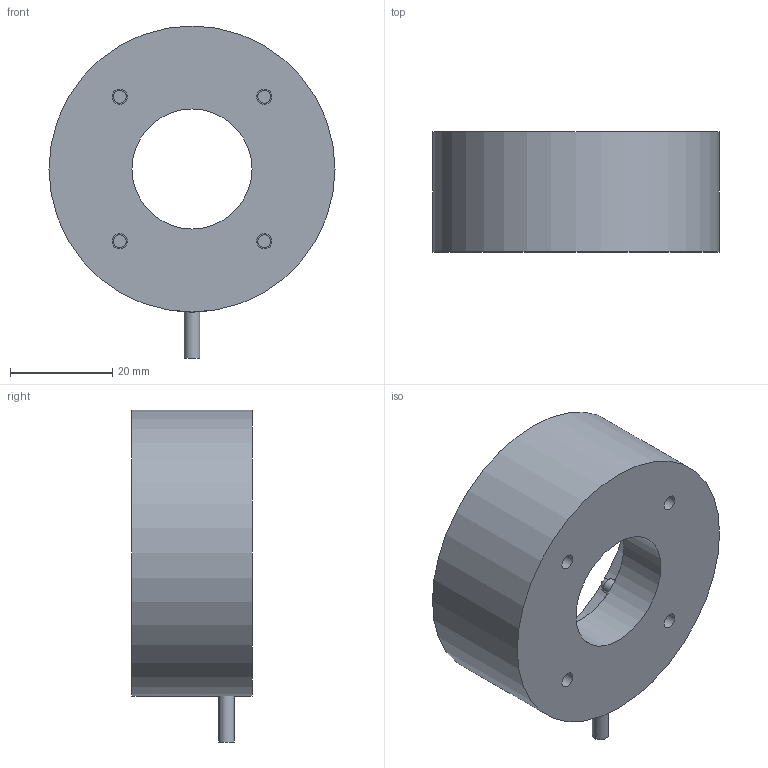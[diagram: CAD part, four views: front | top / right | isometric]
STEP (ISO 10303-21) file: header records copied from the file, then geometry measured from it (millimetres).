
FILE_DESCRIPTION(/* description */ (''),/* implementation_level */ '2;1');
FILE_NAME(/* name */ 'C:\#Vault-WorkDir\Konstruktions-Dokumente\Projekte\Zubehör allgemein\Falcon Beleuchtungen\153-00727_LR 56 x-24-KFL5.stp',/* time_stamp */ '2018-07-25T08:48:13+02:00',/* author */ ('SensoPart'),/* organization */ ('SensoPart'),/* preprocessor_version */ 'ST-DEVELOPER v17',/* originating_system */ 'Autodesk Inventor 2018',/* authorisation */ '');
FILE_SCHEMA (('AUTOMOTIVE_DESIGN { 1 0 10303 214 3 1 1 }'));
Length unit declared in the file: millimetre
Products named in the file (1): GH-ENG-0026485_Shrinkwrap_1
Bounding box: 56 x 23.5 x 65 mm (x, y, z)
Volume: 23819.1 mm3; surface area: 12597.7 mm2
Topology: 8 solids, 8 shells, 113 faces, 273 edges, 212 vertices
Faces by surface type: plane 55, cylinder 52, sphere 6
Full cylindrical faces by diameter (mm): 0.5 x24, 2.5 x4, 2.9 x6, 3 x4, 3.1 x1, 3.2 x7, 23.5 x1, 24.3 x1, 52 x1, 52.2 x1, 54 x1, 56 x1
Entity records: 3708 total; most frequent: DIRECTION 703, CARTESIAN_POINT 627, ORIENTED_EDGE 534, AXIS2_PLACEMENT_3D 324, EDGE_CURVE 267, VERTEX_POINT 212, CIRCLE 210, EDGE_LOOP 157
